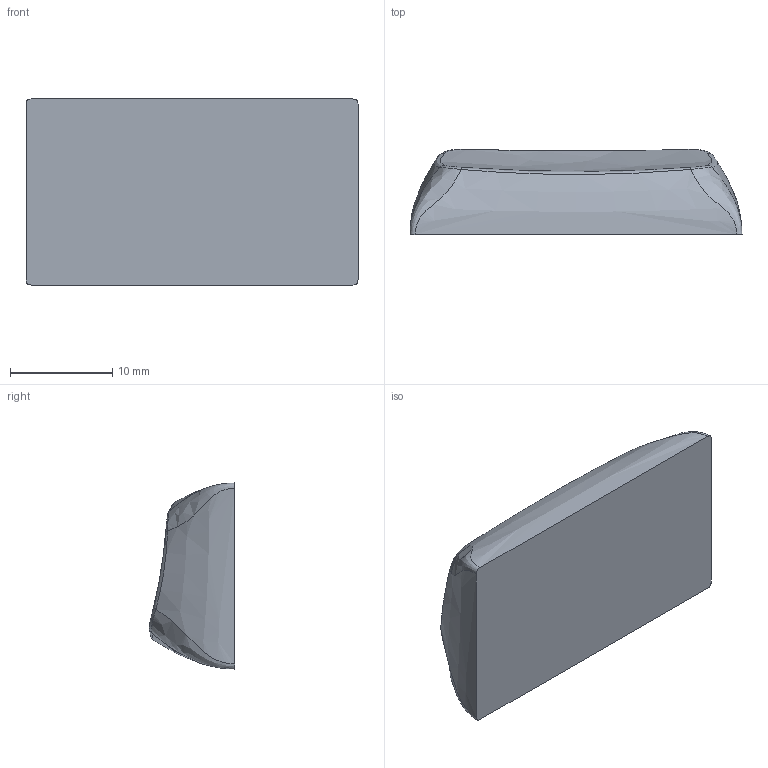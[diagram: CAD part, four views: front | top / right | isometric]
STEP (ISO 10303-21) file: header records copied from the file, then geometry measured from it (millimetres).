
FILE_DESCRIPTION (( 'STEP AP203' ), '1' );
FILE_NAME ('R4_1,75U_base_v3.2_GMK.STEP', '2023-03-07T10:11:56', ( '' ), ( '' ), 'SwSTEP 2.0', 'SolidWorks 2022', '' );
FILE_SCHEMA (( 'CONFIG_CONTROL_DESIGN' ));
Length unit declared in the file: millimetre
Products named in the file (1): R4_1,75U_base_v3.2_GMK
Bounding box: 32.48 x 8.37 x 18.2 mm (x, y, z)
Volume: 3544.4 mm3; surface area: 1654.7 mm2
Topology: 1 solids, 1 shells, 18 faces, 40 edges, 24 vertices
Faces by surface type: bspline 17, plane 1
Entity records: 2857 total; most frequent: CARTESIAN_POINT 2525, ORIENTED_EDGE 80, EDGE_CURVE 40, B_SPLINE_CURVE_WITH_KNOTS 37, VERTEX_POINT 24, ADVANCED_FACE 18, FACE_OUTER_BOUND 18, EDGE_LOOP 18
